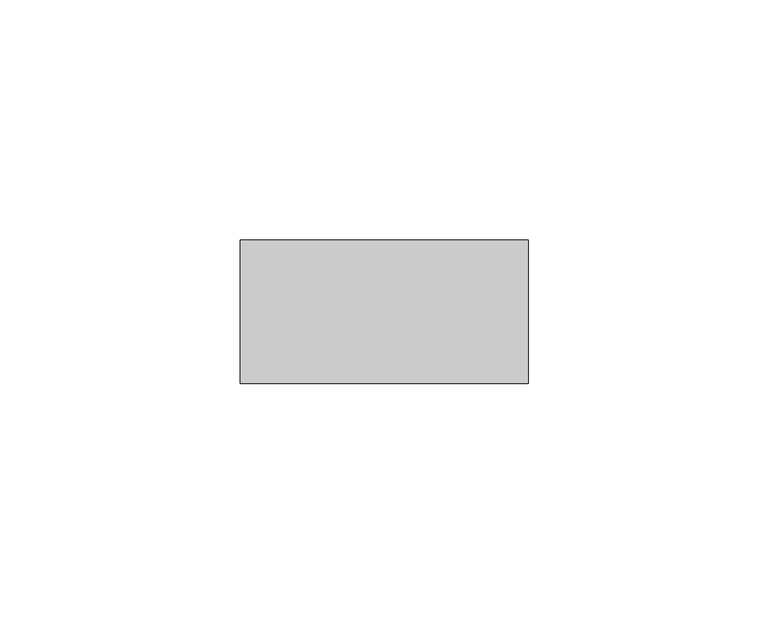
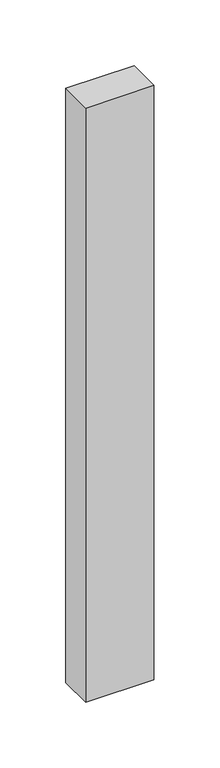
"""IFC4 building model written with IfcOpenShell, lengths in millimetres: member geometry, Прямоугольный импост : Квадрат 30 мм."""

from ifc_helpers import new_model, si_unit, frame, origin, place, context, project, spatial, polyline, outline, extrude, source, transform, mapped, element, save


def member_93a7aba8(model_context):
    return source(origin(), model_context, "Body", "SweptSolid", [
        extrude(outline(polyline([(30.0, 15.0), (30.0, -15.0), (-30.0, -15.0), (-30.0, 15.0), (30.0, 15.0)])), frame((0.0, 0.0, -550.9868378), z_axis=(0.0, 0.0, 1.0), x_axis=(1.0, 0.0, 0.0)), (0.0, 0.0, 1.0), 550.9868378),
    ])


if __name__ == "__main__":
    model = new_model("IFC4")
    model_context = context("Model", 3, world=origin())
    ifc_project = project(units=[si_unit("LENGTHUNIT", "METRE", prefix="MILLI")], contexts=[model_context])
    site = spatial("IfcSite", under=ifc_project)
    building = spatial("IfcBuilding", under=site)
    placement = place(None, origin())
    member_shape = member_93a7aba8(model_context)
    element("IfcMember", 1, ObjectType="Прямоугольный импост : Квадрат 30 мм", at=placement, inside=building, context=model_context, shape_type="MappedRepresentation", body=[
        mapped(member_shape, transform((0.0, 0.0, 0.0), x_axis=(1.0, 0.0, 0.0), y_axis=(0.0, 1.0, 0.0), z_axis=(0.0, 0.0, 1.0))),
    ])
    save(model, "model.ifc")
